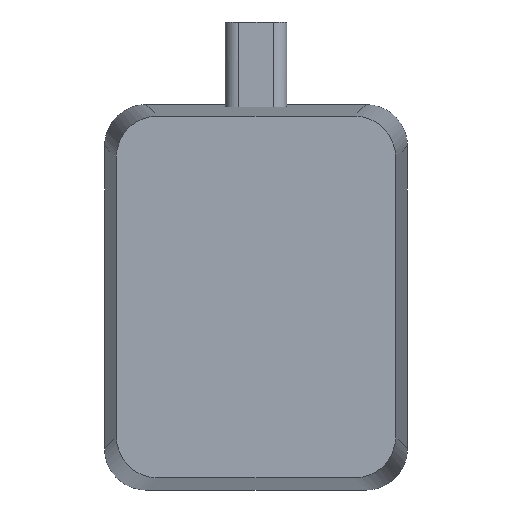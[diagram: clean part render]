
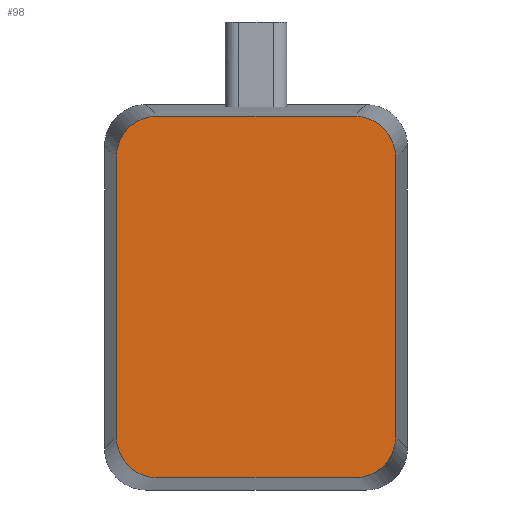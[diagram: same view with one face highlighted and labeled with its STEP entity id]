
A CAD part, top view. The second image highlights one B-rep face of the part: STEP entity #98.
In plain terms, the highlighted planar face has unit normal (0, 0, 1).
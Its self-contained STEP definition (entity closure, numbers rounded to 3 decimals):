
#11 = VERTEX_POINT ( 'NONE', #395 ) ;
#13 = EDGE_CURVE ( 'NONE', #216, #11, #394, .T. ) ;
#98 = ADVANCED_FACE ( 'NONE', ( #659 ), #658, .T. ) ;
#99 = ORIENTED_EDGE ( 'NONE', *, *, #13, .T. ) ;
#100 = ORIENTED_EDGE ( 'NONE', *, *, #153, .T. ) ;
#101 = ORIENTED_EDGE ( 'NONE', *, *, #102, .T. ) ;
#102 = EDGE_CURVE ( 'NONE', #155, #150, #653, .T. ) ;
#106 = ORIENTED_EDGE ( 'NONE', *, *, #110, .T. ) ;
#107 = VERTEX_POINT ( 'NONE', #640 ) ;
#108 = EDGE_LOOP ( 'NONE', ( #99, #106, #100, #101, #111, #112, #114, #115 ) ) ;
#109 = VERTEX_POINT ( 'NONE', #639 ) ;
#110 = EDGE_CURVE ( 'NONE', #11, #154, #638, .T. ) ;
#111 = ORIENTED_EDGE ( 'NONE', *, *, #149, .T. ) ;
#112 = ORIENTED_EDGE ( 'NONE', *, *, #113, .T. ) ;
#113 = EDGE_CURVE ( 'NONE', #172, #109, #608, .T. ) ;
#114 = ORIENTED_EDGE ( 'NONE', *, *, #127, .T. ) ;
#115 = ORIENTED_EDGE ( 'NONE', *, *, #116, .T. ) ;
#116 = EDGE_CURVE ( 'NONE', #107, #216, #601, .T. ) ;
#127 = EDGE_CURVE ( 'NONE', #109, #107, #534, .T. ) ;
#149 = EDGE_CURVE ( 'NONE', #150, #172, #751, .T. ) ;
#150 = VERTEX_POINT ( 'NONE', #742 ) ;
#153 = EDGE_CURVE ( 'NONE', #154, #155, #741, .T. ) ;
#154 = VERTEX_POINT ( 'NONE', #737 ) ;
#155 = VERTEX_POINT ( 'NONE', #736 ) ;
#172 = VERTEX_POINT ( 'NONE', #709 ) ;
#216 = VERTEX_POINT ( 'NONE', #883 ) ;
#391 = DIRECTION ( 'NONE',  ( 0., -1., 0. ) ) ;
#392 = VECTOR ( 'NONE', #391, 1000. ) ;
#393 = CARTESIAN_POINT ( 'NONE',  ( -101.437, 140., 140. ) ) ;
#394 = LINE ( 'NONE', #393, #392 ) ;
#395 = CARTESIAN_POINT ( 'NONE',  ( -101.437, -101.493, 140. ) ) ;
#531 = DIRECTION ( 'NONE',  ( -1., 0., 0. ) ) ;
#532 = VECTOR ( 'NONE', #531, 1000. ) ;
#533 = CARTESIAN_POINT ( 'NONE',  ( -110., 131.437, 140. ) ) ;
#534 = LINE ( 'NONE', #533, #532 ) ;
#597 = CARTESIAN_POINT ( 'NONE',  ( -101.437, 101.493, 140. ) ) ;
#598 = CARTESIAN_POINT ( 'NONE',  ( -101.437, 119.048, 140. ) ) ;
#599 = CARTESIAN_POINT ( 'NONE',  ( -89.048, 131.437, 140. ) ) ;
#600 = CARTESIAN_POINT ( 'NONE',  ( -71.493, 131.437, 140. ) ) ;
#601 =( BOUNDED_CURVE ( )  B_SPLINE_CURVE ( 3, ( #600, #599, #598, #597 ),
 .UNSPECIFIED., .F., .T. ) 
 B_SPLINE_CURVE_WITH_KNOTS ( ( 4, 4 ),
 ( 5.5, 7.067 ),
 .UNSPECIFIED. ) 
 CURVE ( )  GEOMETRIC_REPRESENTATION_ITEM ( )  RATIONAL_B_SPLINE_CURVE ( ( 1., 0.806, 0.806, 1. ) ) 
 REPRESENTATION_ITEM ( '' )  );
#604 = CARTESIAN_POINT ( 'NONE',  ( 71.493, 131.437, 140. ) ) ;
#605 = CARTESIAN_POINT ( 'NONE',  ( 89.048, 131.437, 140. ) ) ;
#606 = CARTESIAN_POINT ( 'NONE',  ( 101.437, 119.048, 140. ) ) ;
#607 = CARTESIAN_POINT ( 'NONE',  ( 101.437, 101.493, 140. ) ) ;
#608 =( BOUNDED_CURVE ( )  B_SPLINE_CURVE ( 3, ( #607, #606, #605, #604 ),
 .UNSPECIFIED., .F., .T. ) 
 B_SPLINE_CURVE_WITH_KNOTS ( ( 4, 4 ),
 ( 5.5, 7.067 ),
 .UNSPECIFIED. ) 
 CURVE ( )  GEOMETRIC_REPRESENTATION_ITEM ( )  RATIONAL_B_SPLINE_CURVE ( ( 1., 0.806, 0.806, 1. ) ) 
 REPRESENTATION_ITEM ( '' )  );
#634 = CARTESIAN_POINT ( 'NONE',  ( -71.493, -131.437, 140. ) ) ;
#635 = CARTESIAN_POINT ( 'NONE',  ( -89.048, -131.437, 140. ) ) ;
#636 = CARTESIAN_POINT ( 'NONE',  ( -101.437, -119.048, 140. ) ) ;
#637 = CARTESIAN_POINT ( 'NONE',  ( -101.437, -101.493, 140. ) ) ;
#638 =( BOUNDED_CURVE ( )  B_SPLINE_CURVE ( 3, ( #637, #636, #635, #634 ),
 .UNSPECIFIED., .F., .T. ) 
 B_SPLINE_CURVE_WITH_KNOTS ( ( 4, 4 ),
 ( 5.5, 7.067 ),
 .UNSPECIFIED. ) 
 CURVE ( )  GEOMETRIC_REPRESENTATION_ITEM ( )  RATIONAL_B_SPLINE_CURVE ( ( 1., 0.806, 0.806, 1. ) ) 
 REPRESENTATION_ITEM ( '' )  );
#639 = CARTESIAN_POINT ( 'NONE',  ( 71.493, 131.437, 140. ) ) ;
#640 = CARTESIAN_POINT ( 'NONE',  ( -71.493, 131.437, 140. ) ) ;
#649 = CARTESIAN_POINT ( 'NONE',  ( 101.437, -101.493, 140. ) ) ;
#650 = CARTESIAN_POINT ( 'NONE',  ( 101.437, -119.048, 140. ) ) ;
#651 = CARTESIAN_POINT ( 'NONE',  ( 89.048, -131.437, 140. ) ) ;
#652 = CARTESIAN_POINT ( 'NONE',  ( 71.493, -131.437, 140. ) ) ;
#653 =( BOUNDED_CURVE ( )  B_SPLINE_CURVE ( 3, ( #652, #651, #650, #649 ),
 .UNSPECIFIED., .F., .T. ) 
 B_SPLINE_CURVE_WITH_KNOTS ( ( 4, 4 ),
 ( 5.5, 7.067 ),
 .UNSPECIFIED. ) 
 CURVE ( )  GEOMETRIC_REPRESENTATION_ITEM ( )  RATIONAL_B_SPLINE_CURVE ( ( 1., 0.806, 0.806, 1. ) ) 
 REPRESENTATION_ITEM ( '' )  );
#654 = DIRECTION ( 'NONE',  ( 1., 0., 0. ) ) ;
#655 = DIRECTION ( 'NONE',  ( 0., 0., 1. ) ) ;
#656 = CARTESIAN_POINT ( 'NONE',  ( -110., -140., 140. ) ) ;
#657 = AXIS2_PLACEMENT_3D ( 'NONE', #656, #655, #654 ) ;
#658 = PLANE ( 'NONE',  #657 ) ;
#659 = FACE_OUTER_BOUND ( 'NONE', #108, .T. ) ;
#709 = CARTESIAN_POINT ( 'NONE',  ( 101.437, 101.493, 140. ) ) ;
#736 = CARTESIAN_POINT ( 'NONE',  ( 71.493, -131.437, 140. ) ) ;
#737 = CARTESIAN_POINT ( 'NONE',  ( -71.493, -131.437, 140. ) ) ;
#738 = DIRECTION ( 'NONE',  ( 1., 0., 0. ) ) ;
#739 = VECTOR ( 'NONE', #738, 1000. ) ;
#740 = CARTESIAN_POINT ( 'NONE',  ( -110., -131.437, 140. ) ) ;
#741 = LINE ( 'NONE', #740, #739 ) ;
#742 = CARTESIAN_POINT ( 'NONE',  ( 101.437, -101.493, 140. ) ) ;
#743 = DIRECTION ( 'NONE',  ( 0., 1., 0. ) ) ;
#744 = VECTOR ( 'NONE', #743, 1000. ) ;
#745 = CARTESIAN_POINT ( 'NONE',  ( 101.437, 140., 140. ) ) ;
#751 = LINE ( 'NONE', #745, #744 ) ;
#883 = CARTESIAN_POINT ( 'NONE',  ( -101.437, 101.493, 140. ) ) ;
